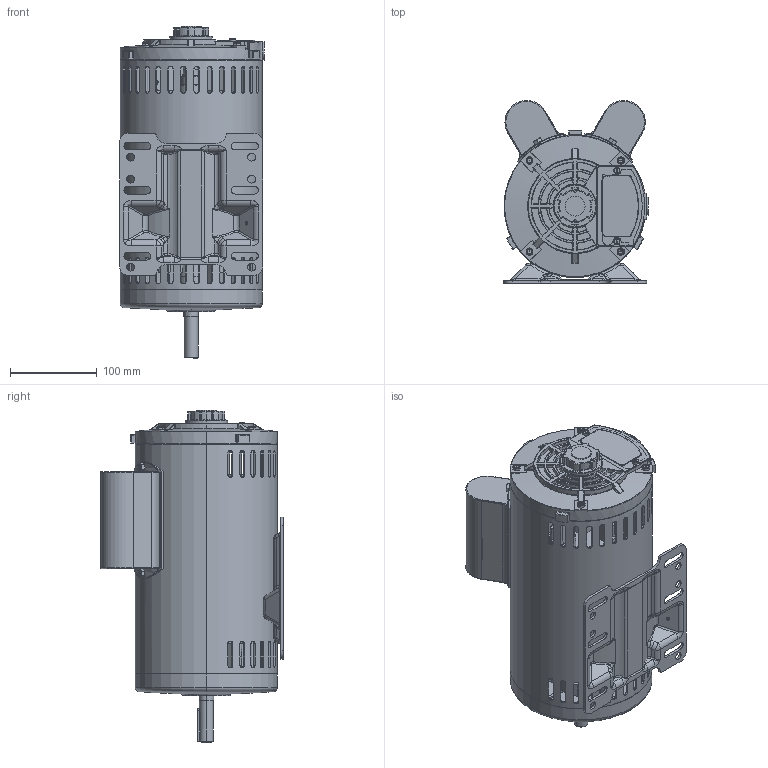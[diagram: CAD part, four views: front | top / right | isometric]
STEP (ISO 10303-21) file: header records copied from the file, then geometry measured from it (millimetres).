
FILE_DESCRIPTION (( 'STEP AP203' ), '1' );
FILE_NAME ('265.STEP', '2025-03-04T02:37:12', ( 'User' ), ( 'China' ), 'SwSTEP 2.0', 'SolidWorks 2019', '' );
FILE_SCHEMA (( 'CONFIG_CONTROL_DESIGN' ));
Length unit declared in the file: millimetre
Products named in the file (6): 265儂褲; -g; -d; 265lg; 265郋粣; 265
Assembly tree (8 placements, depth 2):
  265
    265儂褲
    -g
    -d
    265lg  x4
    265郋粣
Bounding box: 167 x 210.87 x 383.15 mm (x, y, z)
Volume: 2352160.7 mm3; surface area: 837585.9 mm2
Topology: 31 solids, 31 shells, 3318 faces, 8738 edges, 5506 vertices
Faces by surface type: cylinder 1386, plane 1085, torus 286, bspline 285, cone 210, sphere 66
Entity records: 118917 total; most frequent: CARTESIAN_POINT 47393, ORIENTED_EDGE 15470, DIRECTION 14110, EDGE_CURVE 7735, AXIS2_PLACEMENT_3D 5337, VERTEX_POINT 4881, LINE 3436, VECTOR 3436
